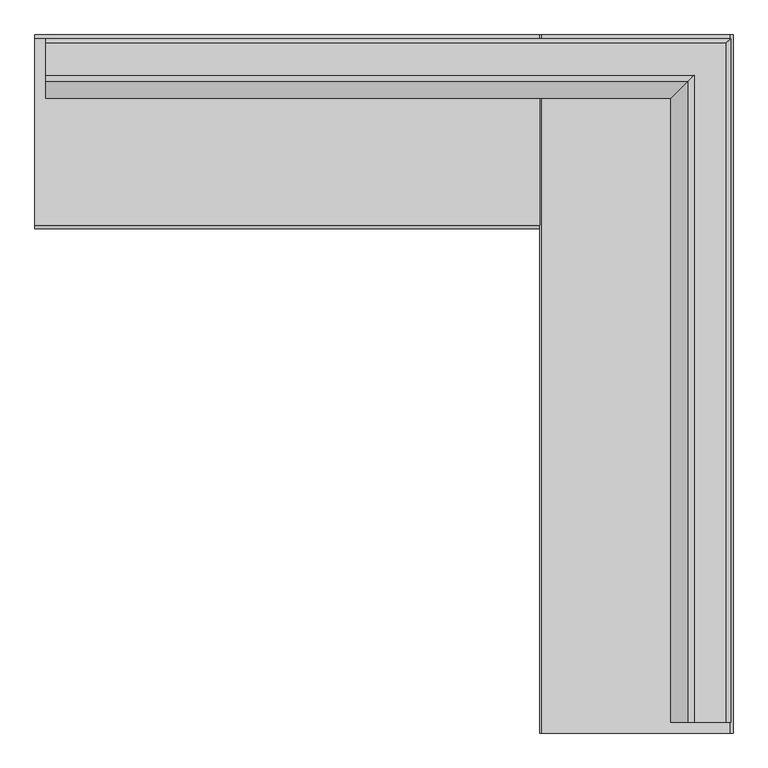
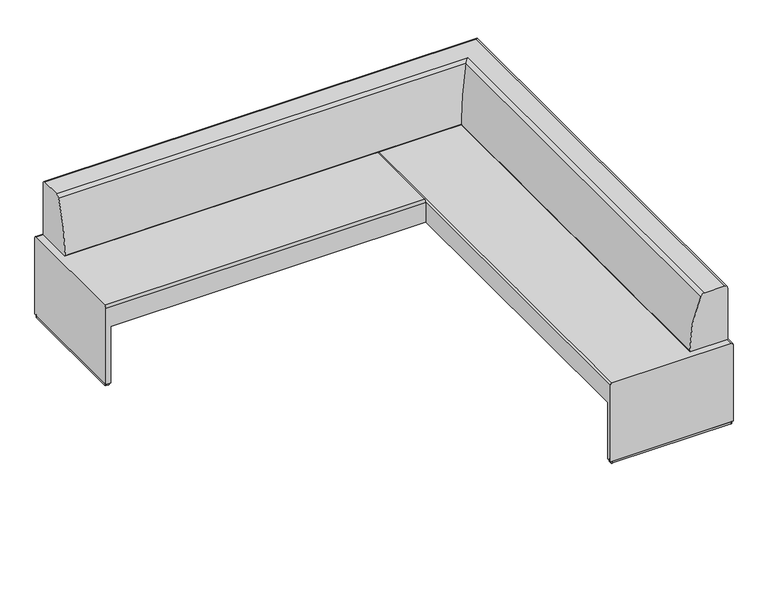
"""IFC4 building model written with IfcOpenShell, lengths in millimetres: furniture geometry, Coalesse_AM_Seating_Bench_Together_RightCorner : 1.5in Back Offset - 96.5D x 96.5W."""

from ifc_helpers import new_model, si_unit, point, frame, frame_2d, origin, origin_with_axes, place, context, project, spatial, polyline, circle_curve, ellipse_curve, trimmed, segment, composite_curve, outline, extrude, source, transform, mapped, element, save
from ifc_brep_helpers import plane_surface, cylinder_surface, advanced_brep


def furniture_ff952edb(model_context):
    return source(origin(), model_context, "Body", "SolidModel", [
        advanced_brep(
        [(774.5287475, 2999.7334745, 461.0687949), (764.3687475, 2999.7334745, 471.2287949), (103.5774354, 2999.7334745, 471.2287949), (95.2070699, 2999.7334745, 462.8584293), (95.2070699, 2999.7334745, 12.7976677), (774.5287475, 2999.7334745, 12.7976677), (95.2070699, 5450.8334745, 343.3718099), (95.2070699, 5450.8334745, 462.8584293), (103.5774354, 5450.8334745, 471.2287949), (764.3687475, 5450.8334745, 471.2287949), (774.5287475, 5450.8334745, 461.0687949), (774.5287475, 5450.8334745, 343.3718099), (774.5287475, 3025.7251879, 343.3718099), (432.8174347, 3070.1341192, 343.3718099), (95.2070699, 3025.7251879, 343.3718099), (774.5287475, 3025.7251879, 12.7976677), (95.2070699, 3025.7251879, 12.7976677), (432.8174347, 3070.1341192, 12.7976677)],
        [
            (0, 1, circle_curve(frame((764.3687475, 2999.7334745, 461.0687949), z_axis=(0.0, -1.0, 0.0), x_axis=(-1.0, 0.0, 0.0)), 10.16)),
            (1, 2),
            (2, 3, circle_curve(frame((103.5774354, 2999.7334745, 462.8584293), z_axis=(0.0, -1.0, 0.0), x_axis=(-1.0, 0.0, 0.0)), 8.3703656)),
            (3, 4),
            (4, 5),
            (5, 0),
            (6, 7),
            (7, 8, circle_curve(frame((103.5774354, 5450.8334745, 462.8584293), z_axis=(0.0, 1.0, 0.0), x_axis=(-1.0, 0.0, 0.0)), 8.3703656)),
            (8, 9),
            (9, 10, circle_curve(frame((764.3687475, 5450.8334745, 461.0687949), z_axis=(0.0, 1.0, 0.0), x_axis=(-1.0, 0.0, 0.0)), 10.16)),
            (10, 11),
            (11, 6),
            (11, 12),
            (12, 13),
            (13, 14),
            (14, 6),
            (5, 15),
            (15, 12),
            (10, 0),
            (9, 1),
            (8, 2),
            (7, 3),
            (14, 16),
            (16, 4),
            (17, 15),
            (16, 17),
            (13, 17),
        ],
        [
            plane_surface(frame((733.0421326, 2999.7334745, 343.3718099), z_axis=(0.0, -1.0, 0.0), x_axis=(1.0, 0.0, 0.0))),
            plane_surface(frame((733.0421326, 5450.8334745, 343.3718099), z_axis=(0.0, 1.0, 0.0), x_axis=(-1.0, 0.0, 0.0))),
            plane_surface(frame((95.2070699, 2999.7334745, 343.3718099), z_axis=(0.0, 0.0, -1.0), x_axis=(0.0, 1.0, 0.0))),
            plane_surface(frame((774.5287475, 2999.7334745, 343.3718099), z_axis=(1.0, 0.0, 0.0), x_axis=(0.0, 1.0, 0.0))),
            cylinder_surface(frame((764.3687475, 5450.8334745, 461.0687949), z_axis=(0.0, -1.0, 0.0), x_axis=(-1.0, 0.0, 0.0)), 10.16),
            plane_surface(frame((764.3687475, 2999.7334745, 471.2287949), z_axis=(0.0, 0.0, 1.0), x_axis=(0.0, 1.0, 0.0))),
            cylinder_surface(frame((103.5774354, 5450.8334745, 462.8584293), z_axis=(0.0, -1.0, 0.0), x_axis=(-1.0, 0.0, 0.0)), 8.3703656),
            plane_surface(frame((95.2070699, 2999.7334745, 462.8584293), z_axis=(-1.0, 0.0, 0.0), x_axis=(0.0, 1.0, 0.0))),
            plane_surface(frame((432.8174347, 3070.1341192, 12.7976677), z_axis=(0.0, 0.0, -1.0000000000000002), x_axis=(0.9914594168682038, 0.13041558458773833, 0.0))),
            plane_surface(frame((432.8174347, 3070.1341192, 343.3718099), z_axis=(-0.13041558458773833, 0.9914594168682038, 0.0), x_axis=(0.0, 0.0, -1.0))),
            plane_surface(frame((774.5287475, 3025.7251879, 343.3718099), z_axis=(0.12887659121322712, 0.991660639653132, 0.0), x_axis=(0.0, 0.0, -1.0))),
        ],
        [
            (0, [[1, 2, 3, 4, 5, 6]]),
            (1, [[7, 8, 9, 10, 11, 12]]),
            (2, [[-12, 13, 14, 15, 16]]),
            (3, [[-6, 17, 18, -13, -11, 19]]),
            (4, [[-1, -19, -10, 20]]),
            (5, [[-2, -20, -9, 21]]),
            (6, [[-3, -21, -8, 22]]),
            (7, [[-4, -22, -7, -16, 23, 24]]),
            (8, [[25, -17, -5, -24, 26]]),
            (9, [[-26, -23, -15, 27]]),
            (10, [[-25, -27, -14, -18]]),
        ],
    ),
        advanced_brep(
        [(-1676.5712525, 4783.2670813, 471.2287949), (-1676.5712525, 5438.3536785, 471.2287949), (-1676.5712525, 5451.0536785, 458.5287949), (-1676.5712525, 5451.0536785, 12.7976677), (-1676.5712525, 4770.5670813, 12.7976677), (-1676.5712525, 4770.5670813, 458.5287949), (95.2070699, 4783.2670813, 471.2287949), (95.2070699, 4770.5670813, 458.5287949), (95.2070699, 4770.5670813, 343.3718099), (95.2070699, 5451.0536785, 343.3718099), (95.2070699, 5451.0536785, 458.5287949), (95.2070699, 5438.3536785, 471.2287949), (-1650.7015245, 5451.0536785, 343.3718099), (-1650.7025858, 5451.0536785, 12.7976677), (-1650.3955542, 4770.5670813, 343.3718099), (-1606.0629721, 5108.4198031, 343.3718099), (-1650.3944726, 4770.5670813, 12.7976677), (-1606.0629721, 5108.4198031, 12.7976677)],
        [
            (0, 1),
            (1, 2, circle_curve(frame((-1676.5712525, 5438.3536785, 458.5287949), z_axis=(-1.0, 0.0, 0.0), x_axis=(0.0, 1.0, 0.0)), 12.7)),
            (2, 3),
            (3, 4),
            (4, 5),
            (5, 0, circle_curve(frame((-1676.5712525, 4783.2670813, 458.5287949), z_axis=(-1.0, 0.0, 0.0), x_axis=(0.0, 1.0, 0.0)), 12.7)),
            (6, 7, circle_curve(frame((95.2070699, 4783.2670813, 458.5287949), z_axis=(1.0, 0.0, 0.0), x_axis=(0.0, 1.0, 0.0)), 12.7)),
            (7, 8),
            (8, 9),
            (9, 10),
            (10, 11, circle_curve(frame((95.2070699, 5438.3536785, 458.5287949), z_axis=(1.0, 0.0, 0.0), x_axis=(0.0, 1.0, 0.0)), 12.7)),
            (11, 6),
            (0, 6),
            (11, 1),
            (10, 2),
            (9, 12),
            (12, 13),
            (13, 3),
            (8, 14),
            (14, 15),
            (15, 12),
            (4, 16),
            (16, 14),
            (7, 5),
            (17, 16),
            (13, 17),
            (15, 17),
        ],
        [
            plane_surface(frame((-1676.5712525, 5450.8334745, 471.2287949), z_axis=(-1.0, 0.0, 0.0), x_axis=(0.0, 1.0, 0.0))),
            plane_surface(frame((95.2070699, 5450.8334745, 471.2287949), z_axis=(1.0, 0.0, 0.0), x_axis=(0.0, -1.0, 0.0))),
            plane_surface(frame((-1676.5712525, 4783.2670813, 471.2287949), z_axis=(0.0, 0.0, 1.0), x_axis=(1.0, 0.0, 0.0))),
            cylinder_surface(frame((95.2070699, 5438.3536785, 458.5287949), z_axis=(-1.0, 0.0, 0.0), x_axis=(0.0, 1.0, 0.0)), 12.7),
            plane_surface(frame((-1676.5712525, 5451.0536785, 458.5287949), z_axis=(0.0, 1.0, 0.0), x_axis=(1.0, 0.0, 0.0))),
            plane_surface(frame((-1676.5712525, 5451.0536785, 343.3718099), z_axis=(0.0, 0.0, -1.0), x_axis=(1.0, 0.0, 0.0))),
            plane_surface(frame((-1676.5712525, 4770.5670813, 343.3718099), z_axis=(0.0, -1.0, 0.0), x_axis=(1.0, 0.0, 0.0))),
            cylinder_surface(frame((95.2070699, 4783.2670813, 458.5287949), z_axis=(-1.0, 0.0, 0.0), x_axis=(0.0, 1.0, 0.0)), 12.7),
            plane_surface(frame((-1650.7025858, 5451.0618248, 12.7976677), z_axis=(0.0, 0.0, -1.0), x_axis=(0.12918886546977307, -0.9916200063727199, 0.0))),
            plane_surface(frame((-1606.0629721, 5108.4198031, 343.3718099), z_axis=(0.9916200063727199, 0.12918886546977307, 0.0), x_axis=(0.0, 0.0, -1.0))),
            plane_surface(frame((-1650.3944726, 4770.5753245, 343.3718099), z_axis=(0.9915004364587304, -0.1301033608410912, 0.0), x_axis=(0.0, 0.0, -1.0))),
        ],
        [
            (0, [[1, 2, 3, 4, 5, 6]]),
            (1, [[7, 8, 9, 10, 11, 12]]),
            (2, [[-1, 13, -12, 14]]),
            (3, [[-2, -14, -11, 15]]),
            (4, [[-3, -15, -10, 16, 17, 18]]),
            (5, [[-9, 19, 20, 21, -16]]),
            (6, [[-5, 22, 23, -19, -8, 24]]),
            (7, [[-6, -24, -7, -13]]),
            (8, [[25, -22, -4, -18, 26]]),
            (9, [[-26, -17, -21, 27]]),
            (10, [[-25, -27, -20, -23]]),
        ],
    ),
        extrude(outline(composite_curve([segment(polyline([(-1606.5189643, 5113.2843855), (-1651.5193515, 4782.1665875)]), True, "CONTINUOUS"), segment(trimmed(circle_curve(frame_2d((-1657.8115092, 4783.0217198)), 6.35), [point((-1651.5193515, 4782.1665875))], [point((-1657.8166959, 4776.6717219))], False, "CARTESIAN"), True, "CONTINUOUS"), segment(polyline([(-1657.8166959, 4776.6717219), (-1670.2739607, 4776.6818969)]), True, "CONTINUOUS"), segment(trimmed(circle_curve(frame_2d((-1670.268774, 4783.0318948)), 6.35), [point((-1670.2739607, 4776.6818969))], [point((-1676.6187719, 4783.0370815))], False, "CARTESIAN"), True, "CONTINUOUS"), segment(polyline([(-1676.6187719, 4783.0370815), (-1676.0832557, 5438.6681616)]), True, "CONTINUOUS"), segment(trimmed(circle_curve(frame_2d((-1669.7332578, 5438.6629749)), 6.35), [point((-1676.0832557, 5438.6681616))], [point((-1669.7280712, 5445.0129728))], False, "CARTESIAN"), True, "CONTINUOUS"), segment(polyline([(-1669.7280712, 5445.0129728), (-1657.2050538, 5445.0027441)]), True, "CONTINUOUS"), segment(trimmed(circle_curve(frame_2d((-1657.2107966, 5437.9717942)), 7.0309522), [point((-1657.2050538, 5445.0027441))], [point((-1650.2423843, 5438.9074858))], False, "CARTESIAN"), True, "CONTINUOUS"), segment(polyline([(-1650.2423843, 5438.9074858), (-1606.5189643, 5113.2843855)]), True, "CONTINUOUS")], self_intersect=False)), origin_with_axes(), (0.0, 0.0, 1.0), 12.7976677),
        extrude(outline(composite_curve([segment(polyline([(437.4499039, 5381.2236386), (106.2954602, 5425.9535555)]), True, "CONTINUOUS"), segment(trimmed(circle_curve(frame_2d((107.1454529, 5432.2464096)), 6.35), [point((106.2954602, 5425.9535555))], [point((100.7954529, 5432.2464096))], False, "CARTESIAN"), True, "CONTINUOUS"), segment(polyline([(100.7954529, 5432.2464096), (100.7954529, 5444.7036785)]), True, "CONTINUOUS"), segment(trimmed(circle_curve(frame_2d((107.1454529, 5444.7036785)), 6.35), [point((100.7954529, 5444.7036785))], [point((107.1454529, 5451.0536785))], False, "CARTESIAN"), True, "CONTINUOUS"), segment(polyline([(107.1454529, 5451.0536785), (762.7767517, 5451.0536785)]), True, "CONTINUOUS"), segment(trimmed(circle_curve(frame_2d((762.7767517, 5444.7036785)), 6.35), [point((762.7767517, 5451.0536785))], [point((769.1267517, 5444.7036785))], False, "CARTESIAN"), True, "CONTINUOUS"), segment(polyline([(769.1267517, 5444.7036785), (769.1267517, 5432.180657)]), True, "CONTINUOUS"), segment(trimmed(circle_curve(frame_2d((762.0957995, 5432.180657)), 7.0309522), [point((769.1267517, 5432.180657))], [point((763.0371826, 5425.2130112))], False, "CARTESIAN"), True, "CONTINUOUS"), segment(polyline([(763.0371826, 5425.2130112), (437.4499039, 5381.2236386)]), True, "CONTINUOUS")], self_intersect=False)), origin_with_axes(), (0.0, 0.0, 1.0), 12.7976677),
        extrude(outline(composite_curve([segment(polyline([(437.4499039, 3070.4466001), (763.0371826, 3026.4572274)]), True, "CONTINUOUS"), segment(trimmed(circle_curve(frame_2d((762.0957995, 3019.4895817)), 7.0309522), [point((763.0371826, 3026.4572274))], [point((769.1267517, 3019.4895817))], False, "CARTESIAN"), True, "CONTINUOUS"), segment(polyline([(769.1267517, 3019.4895817), (769.1267517, 3006.9665601)]), True, "CONTINUOUS"), segment(trimmed(circle_curve(frame_2d((762.7767517, 3006.9665601)), 6.35), [point((769.1267517, 3006.9665601))], [point((762.7767517, 3000.6165601))], False, "CARTESIAN"), True, "CONTINUOUS"), segment(polyline([(762.7767517, 3000.6165601), (107.1454529, 3000.6165601)]), True, "CONTINUOUS"), segment(trimmed(circle_curve(frame_2d((107.1454529, 3006.9665601)), 6.35), [point((107.1454529, 3000.6165601))], [point((100.7954529, 3006.9665601))], False, "CARTESIAN"), True, "CONTINUOUS"), segment(polyline([(100.7954529, 3006.9665601), (100.7954529, 3019.4238291)]), True, "CONTINUOUS"), segment(trimmed(circle_curve(frame_2d((107.1454529, 3019.4238291)), 6.35), [point((100.7954529, 3019.4238291))], [point((106.2954602, 3025.7166831))], False, "CARTESIAN"), True, "CONTINUOUS"), segment(polyline([(106.2954602, 3025.7166831), (437.4499039, 3070.4466001)]), True, "CONTINUOUS")], self_intersect=False)), origin_with_axes(), (0.0, 0.0, 1.0), 12.7976677),
        extrude(outline(polyline([(432.8174347, 5380.6530339), (95.2070699, 5425.0619651), (95.2070699, 5451.0536785), (774.6302917, 5451.0536785), (774.6302917, 5425.0751618), (432.8174347, 5380.6530339)])), frame((0.0, 0.0, 12.7976677), z_axis=(0.0, 0.0, 1.0), x_axis=(1.0, 0.0, 0.0)), (0.0, 0.0, 1.0), 330.5741422),
        advanced_brep(
        [(637.9650651, 3037.8334745, 789.6908243), (617.0761552, 3037.8334745, 775.9296487), (556.0897813, 3037.8334745, 477.5628851), (562.4397614, 3037.8334745, 471.2287949), (765.057783, 3037.8334745, 471.2287949), (765.819783, 3037.8334745, 471.9907949), (765.819783, 3037.8334745, 774.0501793), (750.179138, 3037.8334745, 789.6908243), (637.9650651, 5309.7765091, 789.6908243), (617.0761552, 5288.8875992, 775.9296487), (556.0897813, 5227.9012254, 477.5628851), (562.4397614, 5234.2512054, 471.2287949), (-1638.4712525, 5234.2512054, 471.2287949), (-1638.4712525, 5436.869227, 471.2287949), (765.057783, 5436.869227, 471.2287949), (765.819783, 5437.631227, 471.9907949), (765.819783, 5437.631227, 774.0501793), (750.179138, 5421.990582, 789.6908243), (-1638.4712525, 5421.990582, 789.6908243), (-1638.4712525, 5309.7765091, 789.6908243), (-1638.4712525, 5437.631227, 774.0501793), (-1638.4712525, 5437.631227, 471.9907949), (-1638.4712525, 5227.9012254, 477.5628851), (-1638.4712525, 5288.8875992, 775.9296487)],
        [
            (0, 1, circle_curve(frame((637.9650651, 3037.8334745, 766.9559749), z_axis=(0.0, -1.0, 0.0), x_axis=(-1.0, 0.0, 0.0)), 22.7348495)),
            (1, 2, circle_curve(frame((1307.2331615, 3037.8334745, 479.4448666), z_axis=(0.0, -1.0, 0.0), x_axis=(-1.0, 0.0, 0.0)), 751.1457378)),
            (2, 3, circle_curve(frame((562.4397614, 3037.8334745, 477.5787949), z_axis=(0.0, -1.0, 0.0), x_axis=(-1.0, 0.0, 0.0)), 6.35)),
            (3, 4),
            (4, 5, circle_curve(frame((765.057783, 3037.8334745, 471.9907949), z_axis=(0.0, -1.0, 0.0), x_axis=(-1.0, 0.0, 0.0)), 0.762)),
            (5, 6),
            (6, 7, circle_curve(frame((750.179138, 3037.8334745, 774.0501793), z_axis=(0.0, -1.0, 0.0), x_axis=(-1.0, 0.0, 0.0)), 15.6406451)),
            (7, 0),
            (0, 8),
            (8, 9, ellipse_curve(frame((637.9650651, 5309.7765091, 766.9559749), z_axis=(0.7071067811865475, -0.7071067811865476, 0.0), x_axis=(-0.7071067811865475, -0.7071067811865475, 0.0)), 32.1519324, 22.7348495)),
            (9, 1),
            (9, 10, ellipse_curve(frame((1307.2331615, 5979.0446055, 479.4448666), z_axis=(0.7071067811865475, -0.7071067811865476, 0.0), x_axis=(-0.7071067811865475, -0.7071067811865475, 0.0)), 1062.2804897, 751.1457378)),
            (10, 2),
            (10, 11, ellipse_curve(frame((562.4397614, 5234.2512054, 477.5787949), z_axis=(0.7071067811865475, -0.7071067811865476, 0.0), x_axis=(-0.7071067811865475, -0.7071067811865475, 0.0)), 8.9802561, 6.35)),
            (11, 3),
            (11, 12),
            (12, 13),
            (13, 14),
            (14, 4),
            (14, 15, ellipse_curve(frame((765.057783, 5436.869227, 471.9907949), z_axis=(0.7071067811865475, -0.7071067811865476, 0.0), x_axis=(-0.7071067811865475, -0.7071067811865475, 0.0)), 1.0776307, 0.762)),
            (15, 5),
            (15, 16),
            (16, 6),
            (16, 17, ellipse_curve(frame((750.179138, 5421.990582, 774.0501793), z_axis=(0.7071067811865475, -0.7071067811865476, 0.0), x_axis=(-0.7071067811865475, -0.7071067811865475, 0.0)), 22.1192124, 15.6406451)),
            (17, 7),
            (17, 18),
            (18, 19),
            (19, 8),
            (18, 20, circle_curve(frame((-1638.4712525, 5421.990582, 774.0501793), z_axis=(-1.0, 0.0, 0.0), x_axis=(0.0, -1.0, 0.0)), 15.6406451)),
            (20, 21),
            (21, 13, circle_curve(frame((-1638.4712525, 5436.869227, 471.9907949), z_axis=(-1.0, 0.0, 0.0), x_axis=(0.0, -1.0, 0.0)), 0.762)),
            (12, 22, circle_curve(frame((-1638.4712525, 5234.2512054, 477.5787949), z_axis=(-1.0, 0.0, 0.0), x_axis=(0.0, -1.0, 0.0)), 6.35)),
            (22, 23, circle_curve(frame((-1638.4712525, 5979.0446055, 479.4448666), z_axis=(-1.0, 0.0, 0.0), x_axis=(0.0, -1.0, 0.0)), 751.1457378)),
            (23, 19, circle_curve(frame((-1638.4712525, 5309.7765091, 766.9559749), z_axis=(-1.0, 0.0, 0.0), x_axis=(0.0, -1.0, 0.0)), 22.7348495)),
            (23, 9),
            (22, 10),
            (21, 15),
            (20, 16),
        ],
        [
            plane_surface(frame((555.2553454, 3037.8334745, 0.0), z_axis=(0.0, -1.0, 0.0), x_axis=(0.0, 0.0, 1.0))),
            cylinder_surface(frame((637.9650651, 3037.8334745, 766.9559749), z_axis=(0.0, -1.0, 0.0), x_axis=(-1.0, 0.0, 0.0)), 22.7348495),
            cylinder_surface(frame((1307.2331615, 3037.8334745, 479.4448666), z_axis=(0.0, -1.0, 0.0), x_axis=(-1.0, 0.0, 0.0)), 751.1457378),
            cylinder_surface(frame((562.4397614, 3037.8334745, 477.5787949), z_axis=(0.0, -1.0, 0.0), x_axis=(-1.0, 0.0, 0.0)), 6.35),
            plane_surface(frame((562.4397614, 3037.8334745, 471.2287949), z_axis=(0.0, 0.0, -1.0), x_axis=(0.0, 1.0, 0.0))),
            cylinder_surface(frame((765.057783, 3037.8334745, 471.9907949), z_axis=(0.0, -1.0, 0.0), x_axis=(-1.0, 0.0, 0.0)), 0.762),
            plane_surface(frame((765.819783, 3037.8334745, 471.9907949), z_axis=(1.0, 0.0, 0.0), x_axis=(0.0, 1.0, 0.0))),
            cylinder_surface(frame((750.179138, 3037.8334745, 774.0501793), z_axis=(0.0, -1.0, 0.0), x_axis=(-1.0, 0.0, 0.0)), 15.6406451),
            plane_surface(frame((750.179138, 3037.8334745, 789.6908243), z_axis=(0.0, 0.0, 1.0), x_axis=(0.0, 1.0, 0.0))),
            plane_surface(frame((-1638.4712525, 5227.0667894, 0.0), z_axis=(-1.0, 0.0, 0.0), x_axis=(0.0, 0.0, 1.0))),
            cylinder_surface(frame((555.2553454, 5309.7765091, 766.9559749), z_axis=(1.0, 0.0, 0.0), x_axis=(0.0, -1.0, 0.0)), 22.7348495),
            cylinder_surface(frame((555.2553454, 5979.0446055, 479.4448666), z_axis=(1.0, 0.0, 0.0), x_axis=(0.0, -1.0, 0.0)), 751.1457378),
            cylinder_surface(frame((555.2553454, 5234.2512054, 477.5787949), z_axis=(1.0, 0.0, 0.0), x_axis=(0.0, -1.0, 0.0)), 6.35),
            cylinder_surface(frame((555.2553454, 5436.869227, 471.9907949), z_axis=(1.0, 0.0, 0.0), x_axis=(0.0, -1.0, 0.0)), 0.762),
            plane_surface(frame((765.819783, 5437.631227, 471.9907949), z_axis=(0.0, 1.0, 0.0), x_axis=(-1.0, 0.0, 0.0))),
            cylinder_surface(frame((555.2553454, 5421.990582, 774.0501793), z_axis=(1.0, 0.0, 0.0), x_axis=(0.0, -1.0, 0.0)), 15.6406451),
        ],
        [
            (0, [[1, 2, 3, 4, 5, 6, 7, 8]]),
            (1, [[-1, 9, 10, 11]]),
            (2, [[-2, -11, 12, 13]]),
            (3, [[-3, -13, 14, 15]]),
            (4, [[-4, -15, 16, 17, 18, 19]]),
            (5, [[-5, -19, 20, 21]]),
            (6, [[-6, -21, 22, 23]]),
            (7, [[-7, -23, 24, 25]]),
            (8, [[-8, -25, 26, 27, 28, -9]]),
            (9, [[-27, 29, 30, 31, -17, 32, 33, 34]]),
            (10, [[-10, -28, -34, 35]]),
            (11, [[-12, -35, -33, 36]]),
            (12, [[-14, -36, -32, -16]]),
            (13, [[-20, -18, -31, 37]]),
            (14, [[-22, -37, -30, 38]]),
            (15, [[-24, -38, -29, -26]]),
        ],
    ),
    ])


if __name__ == "__main__":
    model = new_model("IFC4")
    model_context = context("Model", 3, world=origin())
    ifc_project = project(units=[si_unit("LENGTHUNIT", "METRE", prefix="MILLI")], contexts=[model_context])
    site = spatial("IfcSite", under=ifc_project)
    building = spatial("IfcBuilding", under=site)
    placement = place(None, origin())
    furniture_shape = furniture_ff952edb(model_context)
    element("IfcFurniture", 1, ObjectType="Coalesse_AM_Seating_Bench_Together_RightCorner : 1.5in Back Offset - 96.5D x 96.5W", at=placement, inside=building, context=model_context, shape_type="MappedRepresentation", body=[
        mapped(furniture_shape, transform((0.0, 0.0, 0.0), x_axis=(1.0, 0.0, 0.0), y_axis=(0.0, 1.0, 0.0), z_axis=(0.0, 0.0, 1.0))),
    ])
    save(model, "model.ifc")
